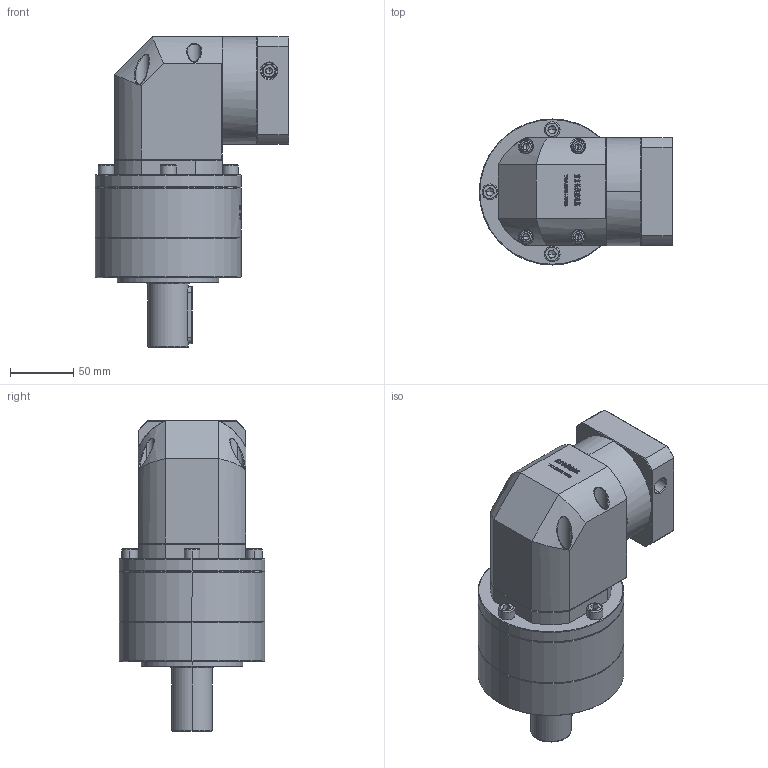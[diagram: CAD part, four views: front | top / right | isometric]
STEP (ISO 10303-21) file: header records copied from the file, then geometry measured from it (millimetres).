
FILE_DESCRIPTION (( 'STEP AP214' ), '1' );
FILE_NAME ('ZER120A-D32-L2-14-60-75-M5.step', '2023-03-14T10:36:42', ( '' ), ( '' ), 'SwSTEP 2.0', 'SolidWorks 2016', '' );
FILE_SCHEMA (( 'AUTOMOTIVE_DESIGN' ));
Length unit declared in the file: millimetre
Products named in the file (1): ZER120A-D32-L2-14-60-75-M5
Bounding box: 152.6 x 115 x 245 mm (x, y, z)
Volume: 1817373.2 mm3; surface area: 165712.4 mm2
Topology: 6 solids, 6 shells, 3094 faces, 8235 edges, 5285 vertices
Faces by surface type: plane 1576, bspline 637, cylinder 550, cone 317, torus 14
Entity records: 175514 total; most frequent: CARTESIAN_POINT 71356, ORIENTED_EDGE 16362, DIRECTION 11818, EDGE_CURVE 8181, VERTEX_POINT 5285, LINE 5030, VECTOR 5030, AXIS2_PLACEMENT_3D 3394
